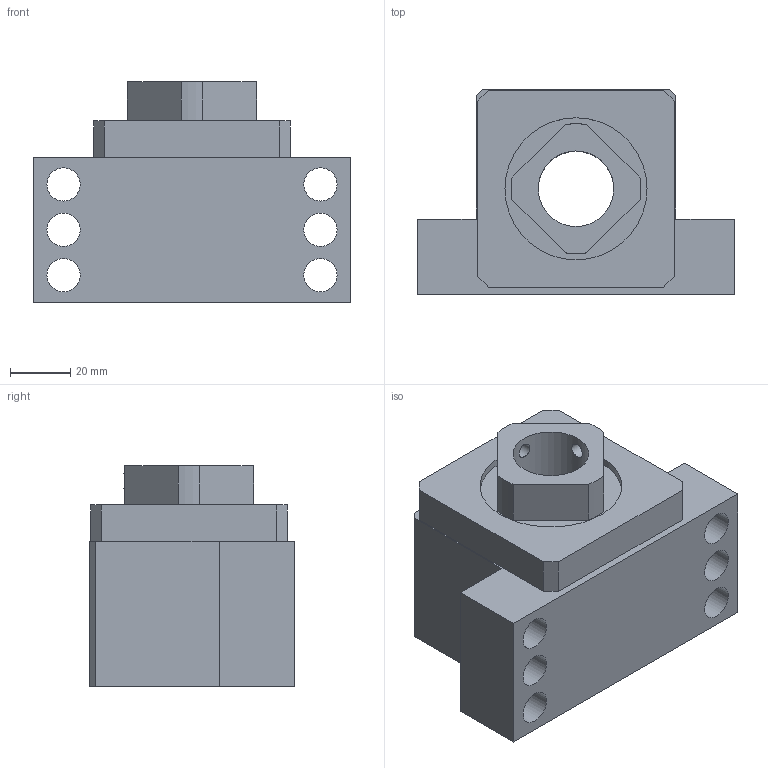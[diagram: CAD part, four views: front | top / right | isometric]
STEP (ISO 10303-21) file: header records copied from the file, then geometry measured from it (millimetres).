
FILE_DESCRIPTION(/* description */ (''),/* implementation_level */ '2;1');
FILE_NAME(/* name */ 'C:\Users\tenki620635\Desktop\官網\圖面\軸承座\3D\setp檔\AK25.stp',/* time_stamp */ '2020-12-18T18:31:48+08:00',/* author */ ('tenki620635'),/* organization */ (''),/* preprocessor_version */ 'ST-DEVELOPER v15.2',/* originating_system */ 'Autodesk Inventor 2014',/* authorisation */ '');
FILE_SCHEMA (('AUTOMOTIVE_DESIGN { 1 0 10303 214 3 1 1 }'));
Length unit declared in the file: millimetre
Products named in the file (1): AK25
Bounding box: 105 x 68 x 73 mm (x, y, z)
Volume: 275002.5 mm3; surface area: 42874.8 mm2
Topology: 1 solids, 1 shells, 49 faces, 132 edges, 91 vertices
Faces by surface type: plane 31, cylinder 18
Full cylindrical faces by diameter (mm): 4.917 x2, 11 x6, 25 x1, 29.5 x2, 32 x1, 47 x2
Entity records: 1575 total; most frequent: CARTESIAN_POINT 376, DIRECTION 234, ORIENTED_EDGE 216, EDGE_CURVE 108, EDGE_LOOP 88, VERTEX_POINT 82, AXIS2_PLACEMENT_3D 82, LINE 70
